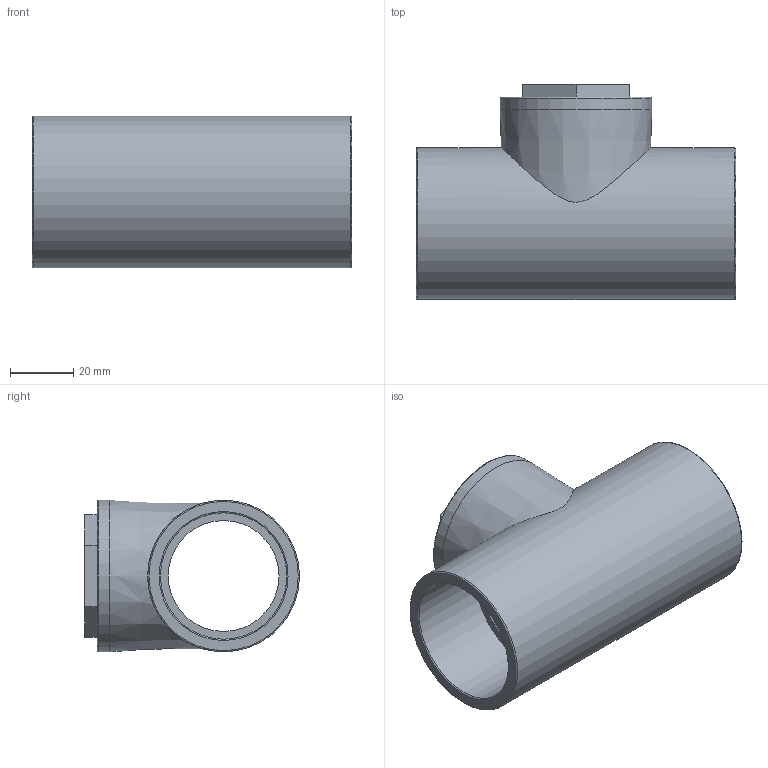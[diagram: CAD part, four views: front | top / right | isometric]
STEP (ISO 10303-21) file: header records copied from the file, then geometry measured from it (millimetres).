
FILE_DESCRIPTION(/* description */ ('PLASSON CHECK VALVE T-CLAPPERALVE-CEMENT 40'),/* implementation_level */ '2;1');
FILE_NAME(/* name */ 'C:\Dropbox\KIMPROJECTS-Inventor\99-16-3568-Processing\PVC Catalog 2017\050408\050408040.ipt.stp',/* time_stamp */ '2017-12-07T15:55:24+02:00',/* author */ ('KIM'),/* organization */ (''),/* preprocessor_version */ 'ST-DEVELOPER v15.6',/* originating_system */ 'Autodesk Inventor 2015',/* authorisation */ '');
FILE_SCHEMA (('AUTOMOTIVE_DESIGN { 1 0 10303 214 3 1 1 }'));
Length unit declared in the file: millimetre
Products named in the file (1): 050408040
Bounding box: 101 x 68 x 48 mm (x, y, z)
Volume: 108419.1 mm3; surface area: 32439.4 mm2
Topology: 1 solids, 1 shells, 23 faces, 48 edges, 30 vertices
Faces by surface type: plane 12, cylinder 5, torus 5, cone 1
Full cylindrical faces by diameter (mm): 35.057 x1, 40 x2, 48 x2
Entity records: 630 total; most frequent: CARTESIAN_POINT 159, DIRECTION 96, ORIENTED_EDGE 68, EDGE_LOOP 40, AXIS2_PLACEMENT_3D 39, EDGE_CURVE 34, VERTEX_POINT 28, FACE_OUTER_BOUND 23
